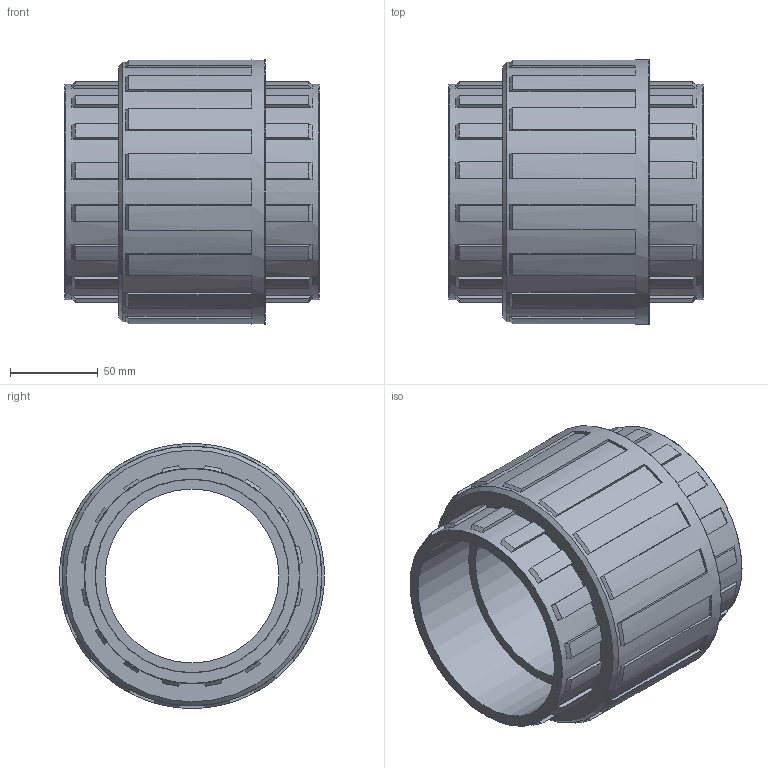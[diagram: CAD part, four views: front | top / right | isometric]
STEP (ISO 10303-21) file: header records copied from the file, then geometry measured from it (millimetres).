
FILE_DESCRIPTION(/* description */ ('PLASSON THR.UNION+O RING PVC 4"'),/* implementation_level */ '2;1');
FILE_NAME(/* name */ 'C:\Dropbox\KIMPROJECTS-Inventor\99-16-3568-Processing\PVC Catalog 2017\050801\050801040.ipt.stp',/* time_stamp */ '2017-12-07T15:58:11+02:00',/* author */ ('KIM'),/* organization */ (''),/* preprocessor_version */ 'ST-DEVELOPER v15.6',/* originating_system */ 'Autodesk Inventor 2015',/* authorisation */ '');
FILE_SCHEMA (('AUTOMOTIVE_DESIGN { 1 0 10303 214 3 1 1 }'));
Length unit declared in the file: millimetre
Products named in the file (1): 050801040
Bounding box: 145 x 151 x 151 mm (x, y, z)
Volume: 942368.4 mm3; surface area: 136787 mm2
Topology: 1 solids, 1 shells, 211 faces, 609 edges, 404 vertices
Faces by surface type: plane 118, cone 49, cylinder 39, torus 5
Full cylindrical faces by diameter (mm): 99.065 x1, 110.072 x2, 122.785 x2, 147.98 x1, 151 x1
Entity records: 6910 total; most frequent: DIRECTION 1224, CARTESIAN_POINT 1204, ORIENTED_EDGE 1184, EDGE_CURVE 592, AXIS2_PLACEMENT_3D 420, VERTEX_POINT 400, LINE 384, VECTOR 384
